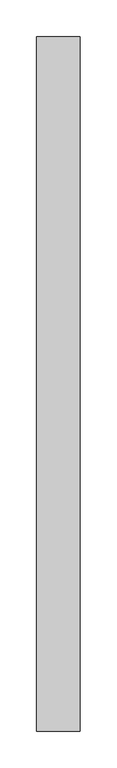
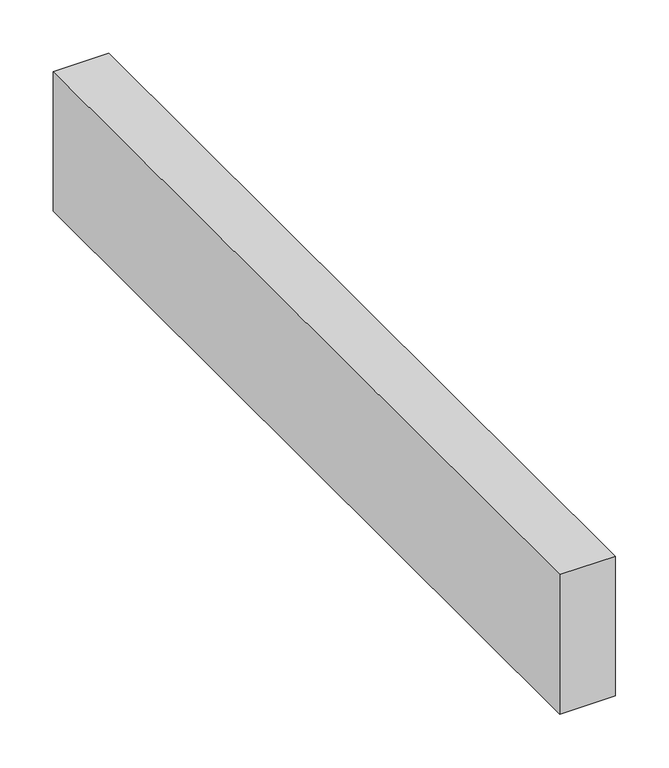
"""IFC4 building model written with IfcOpenShell, lengths in millimetres: proxy geometry, Modelos genéricos 9 : Modelos genéricos 9."""

from ifc_helpers import new_model, si_unit, frame, origin, place, context, project, spatial, polyline, outline, extrude, source, transform, mapped, element, save


def generic_models_0ec3bfae(model_context):
    return source(origin(), model_context, "Body", "SweptSolid", [
        extrude(outline(polyline([(-12556.5527533, 2418.6238165), (-12556.5527533, 1468.6238165), (-12616.5527533, 1468.6238165), (-12616.5527533, 2418.6238165), (-12556.5527533, 2418.6238165)])), frame((0.0, 0.0, 3000.0), z_axis=(0.0, 0.0, 1.0), x_axis=(1.0, 0.0, 0.0)), (0.0, 0.0, 1.0), 160.0),
    ])


if __name__ == "__main__":
    model = new_model("IFC4")
    model_context = context("Model", 3, world=origin())
    ifc_project = project(units=[si_unit("LENGTHUNIT", "METRE", prefix="MILLI")], contexts=[model_context])
    site = spatial("IfcSite", under=ifc_project)
    building = spatial("IfcBuilding", under=site)
    placement = place(None, origin())
    generic_models_shape = generic_models_0ec3bfae(model_context)
    element("IfcBuildingElementProxy", 1, Name="Modelos genéricos 9 : Modelos genéricos 9", ObjectType="Modelos genéricos 9 : Modelos genéricos 9", at=placement, inside=building, context=model_context, shape_type="MappedRepresentation", body=[
        mapped(generic_models_shape, transform((0.0, 0.0, 0.0), x_axis=(1.0, 0.0, 0.0), y_axis=(0.0, 1.0, 0.0), z_axis=(0.0, 0.0, 1.0))),
    ])
    save(model, "model.ifc")
